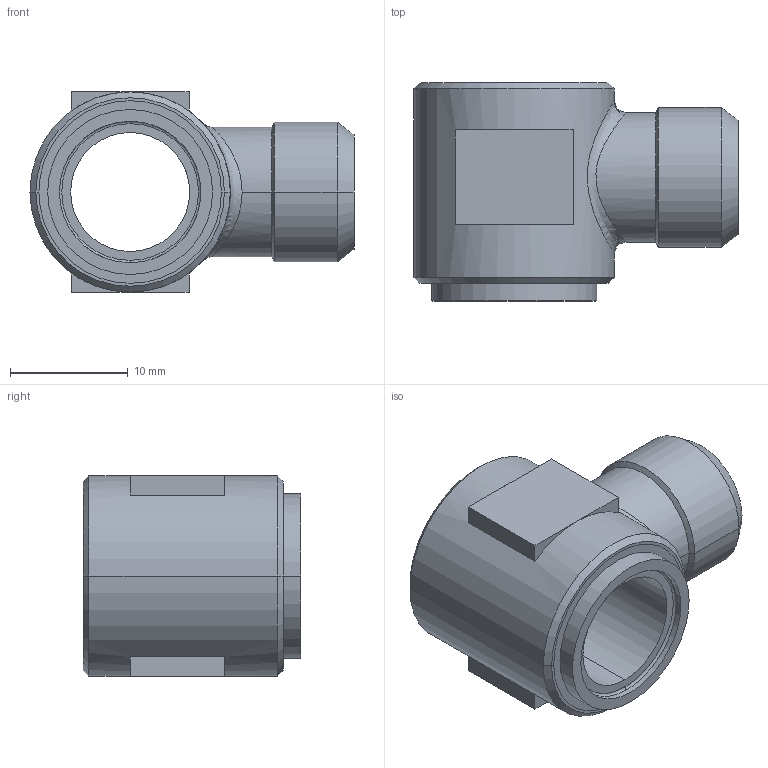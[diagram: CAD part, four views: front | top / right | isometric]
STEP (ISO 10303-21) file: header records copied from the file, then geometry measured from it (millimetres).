
FILE_DESCRIPTION((''),'2;1');
FILE_NAME('101304.stp','2007-10-30T15:42:58',(''),(''),'AutoCAD STEP 2000i','AutoCAD 2000i',', , ');
FILE_SCHEMA(('CONFIG_CONTROL_DESIGN'));
Length unit declared in the file: millimetre
Products named in the file (2): 101304.0; 1094#0
Assembly tree (1 placements, depth 2):
  101304.0
    1094#0
Bounding box: 27.5 x 18.5 x 17 mm (x, y, z)
Volume: 3437.8 mm3; surface area: 2470.9 mm2
Topology: 1 solids, 1 shells, 55 faces, 127 edges, 79 vertices
Faces by surface type: plane 20, cylinder 16, cone 14, bspline 5
Entity records: 2054 total; most frequent: CARTESIAN_POINT 669, DIRECTION 285, ORIENTED_EDGE 254, EDGE_CURVE 127, AXIS2_PLACEMENT_3D 115, VERTEX_POINT 79, EDGE_LOOP 64, CIRCLE 63
